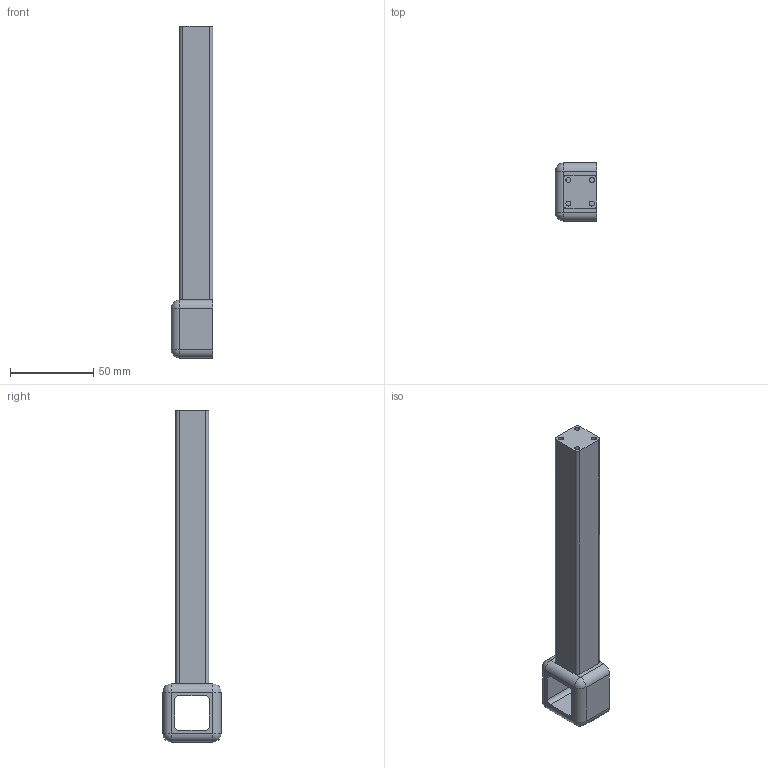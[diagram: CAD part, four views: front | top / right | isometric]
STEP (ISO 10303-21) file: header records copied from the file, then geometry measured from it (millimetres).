
FILE_DESCRIPTION (( 'STEP AP203' ), '1' );
FILE_NAME ('y.STEP', '2020-03-04T09:23:26', ( '' ), ( '' ), 'SwSTEP 2.0', 'SolidWorks 2018', '' );
FILE_SCHEMA (( 'CONFIG_CONTROL_DESIGN' ));
Length unit declared in the file: millimetre
Products named in the file (1): y
Bounding box: 25 x 35 x 200 mm (x, y, z)
Volume: 83680.9 mm3; surface area: 19531.2 mm2
Topology: 1 solids, 1 shells, 47 faces, 113 edges, 68 vertices
Faces by surface type: cylinder 24, plane 19, sphere 4
Entity records: 1420 total; most frequent: DIRECTION 253, CARTESIAN_POINT 225, ORIENTED_EDGE 218, EDGE_CURVE 109, AXIS2_PLACEMENT_3D 96, VERTEX_POINT 68, LINE 61, VECTOR 61
